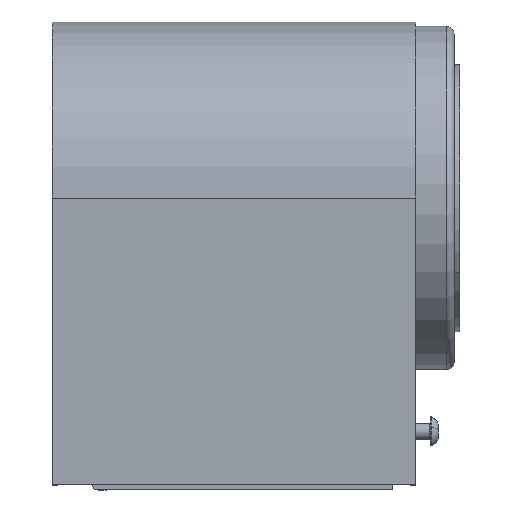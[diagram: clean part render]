
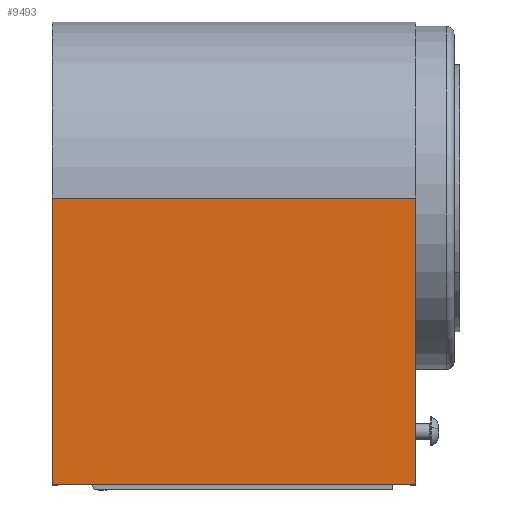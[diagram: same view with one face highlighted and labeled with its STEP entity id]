
A CAD part, left-side view. The second image highlights one B-rep face of the part: STEP entity #9493.
In plain terms, the highlighted planar face has unit normal (-1, 0, 0).
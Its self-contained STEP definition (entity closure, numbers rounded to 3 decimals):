
#1300 = DIRECTION ( 'NONE',  ( -1., 0., 0. ) ) ;
#1329 = CARTESIAN_POINT ( 'NONE',  ( -46., 47.5, 0. ) ) ;
#1650 = CARTESIAN_POINT ( 'NONE',  ( -46., -47.5, 74.8 ) ) ;
#2937 = VERTEX_POINT ( 'NONE', #1650 ) ;
#3046 = DIRECTION ( 'NONE',  ( 0., 0., -1. ) ) ;
#3261 = VECTOR ( 'NONE', #9888, 1000. ) ;
#3806 = PLANE ( 'NONE',  #16078 ) ;
#3816 = VECTOR ( 'NONE', #17662, 1000. ) ;
#4039 = ORIENTED_EDGE ( 'NONE', *, *, #6136, .T. ) ;
#4306 = LINE ( 'NONE', #10991, #3816 ) ;
#6136 = EDGE_CURVE ( 'NONE', #6398, #10850, #18211, .T. ) ;
#6398 = VERTEX_POINT ( 'NONE', #1329 ) ;
#7639 = LINE ( 'NONE', #7968, #21601 ) ;
#7968 = CARTESIAN_POINT ( 'NONE',  ( -46., 47.5, 74.8 ) ) ;
#9493 = ADVANCED_FACE ( 'NONE', ( #18800 ), #3806, .T. ) ;
#9520 = EDGE_CURVE ( 'NONE', #20171, #6398, #7639, .T. ) ;
#9888 = DIRECTION ( 'NONE',  ( 0., -1., 0. ) ) ;
#10458 = ORIENTED_EDGE ( 'NONE', *, *, #15409, .F. ) ;
#10850 = VERTEX_POINT ( 'NONE', #12174 ) ;
#10991 = CARTESIAN_POINT ( 'NONE',  ( -46., -47.5, 74.8 ) ) ;
#11358 = DIRECTION ( 'NONE',  ( 0., -1., 0. ) ) ;
#11365 = CARTESIAN_POINT ( 'NONE',  ( -46., 47.5, 74.8 ) ) ;
#12174 = CARTESIAN_POINT ( 'NONE',  ( -46., -47.5, 0. ) ) ;
#12688 = ORIENTED_EDGE ( 'NONE', *, *, #9520, .T. ) ;
#14775 = LINE ( 'NONE', #18241, #17720 ) ;
#15409 = EDGE_CURVE ( 'NONE', #20171, #2937, #14775, .T. ) ;
#15652 = EDGE_LOOP ( 'NONE', ( #4039, #16260, #10458, #12688 ) ) ;
#16078 = AXIS2_PLACEMENT_3D ( 'NONE', #19226, #1300, #17919 ) ;
#16260 = ORIENTED_EDGE ( 'NONE', *, *, #19170, .F. ) ;
#17662 = DIRECTION ( 'NONE',  ( 0., 0., -1. ) ) ;
#17720 = VECTOR ( 'NONE', #11358, 1000. ) ;
#17919 = DIRECTION ( 'NONE',  ( 0., 0., 1. ) ) ;
#18211 = LINE ( 'NONE', #20053, #3261 ) ;
#18241 = CARTESIAN_POINT ( 'NONE',  ( -46., 47.5, 74.8 ) ) ;
#18800 = FACE_OUTER_BOUND ( 'NONE', #15652, .T. ) ;
#19170 = EDGE_CURVE ( 'NONE', #2937, #10850, #4306, .T. ) ;
#19226 = CARTESIAN_POINT ( 'NONE',  ( -46., 47.5, 74.8 ) ) ;
#20053 = CARTESIAN_POINT ( 'NONE',  ( -46., 47.5, 0. ) ) ;
#20171 = VERTEX_POINT ( 'NONE', #11365 ) ;
#21601 = VECTOR ( 'NONE', #3046, 1000. ) ;
